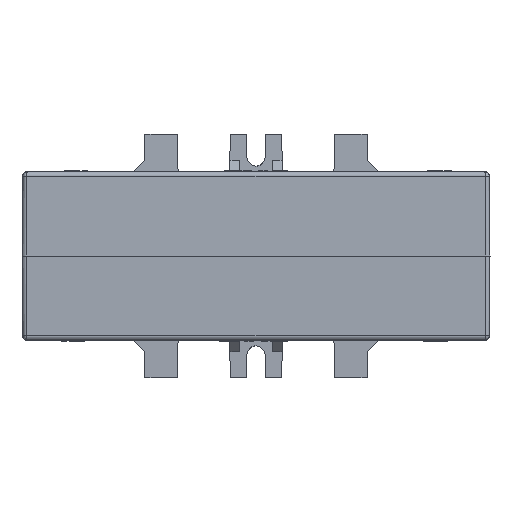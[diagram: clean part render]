
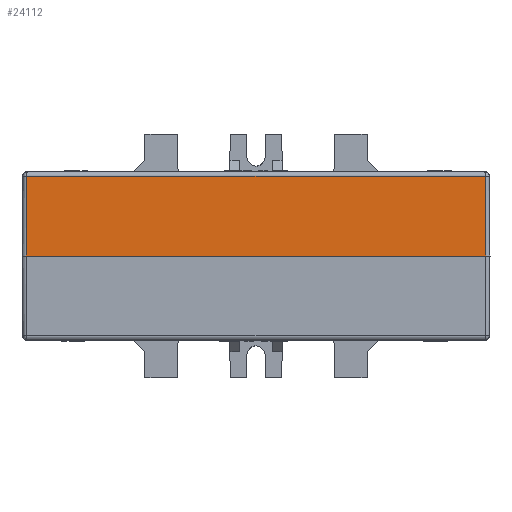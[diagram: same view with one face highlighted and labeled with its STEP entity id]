
A CAD part, front view. The second image highlights one B-rep face of the part: STEP entity #24112.
In plain terms, the highlighted planar face has unit normal (0, -1, 0.009).
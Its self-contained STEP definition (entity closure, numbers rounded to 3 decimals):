
#664=PLANE('',#25535);
#1642=FACE_OUTER_BOUND('',#2963,.T.);
#2963=EDGE_LOOP('',(#17316,#17317,#17318,#17319));
#4408=LINE('',#34734,#7252);
#4592=LINE('',#35242,#7436);
#4626=LINE('',#35307,#7470);
#4628=LINE('',#35310,#7472);
#7252=VECTOR('',#27685,1.);
#7436=VECTOR('',#28103,1.);
#7470=VECTOR('',#28167,1.);
#7472=VECTOR('',#28171,1.);
#10597=VERTEX_POINT('',#34724);
#10601=VERTEX_POINT('',#34733);
#10741=VERTEX_POINT('',#35231);
#10745=VERTEX_POINT('',#35240);
#13080=EDGE_CURVE('',#10601,#10597,#4408,.T.);
#13305=EDGE_CURVE('',#10745,#10741,#4592,.T.);
#13339=EDGE_CURVE('',#10741,#10597,#4626,.T.);
#13341=EDGE_CURVE('',#10745,#10601,#4628,.T.);
#17316=ORIENTED_EDGE('',*,*,#13305,.F.);
#17317=ORIENTED_EDGE('',*,*,#13341,.T.);
#17318=ORIENTED_EDGE('',*,*,#13080,.T.);
#17319=ORIENTED_EDGE('',*,*,#13339,.F.);
#24112=ADVANCED_FACE('',(#1642),#664,.F.);
#25535=AXIS2_PLACEMENT_3D('',#35309,#28169,#28170);
#27685=DIRECTION('',(-0.009,0.009,1.));
#28103=DIRECTION('',(0.009,0.009,1.));
#28167=DIRECTION('',(1.,0.,0.));
#28169=DIRECTION('center_axis',(0.,1.,
-0.009));
#28170=DIRECTION('ref_axis',(0.,0.009,
1.));
#28171=DIRECTION('',(1.,0.,0.));
#34724=CARTESIAN_POINT('',(-551.104,-99.812,-4.078));
#34733=CARTESIAN_POINT('',(-550.956,-99.961,-21.087));
#34734=CARTESIAN_POINT('',(-550.956,-99.961,-21.087));
#35231=CARTESIAN_POINT('',(-648.896,-99.812,-4.078));
#35240=CARTESIAN_POINT('',(-649.044,-99.961,-21.087));
#35242=CARTESIAN_POINT('',(-649.044,-99.961,-21.087));
#35307=CARTESIAN_POINT('',(-713.644,-99.812,-4.078));
#35309=CARTESIAN_POINT('Origin',(-713.644,-99.961,-21.087));
#35310=CARTESIAN_POINT('',(-713.644,-99.961,-21.087));
